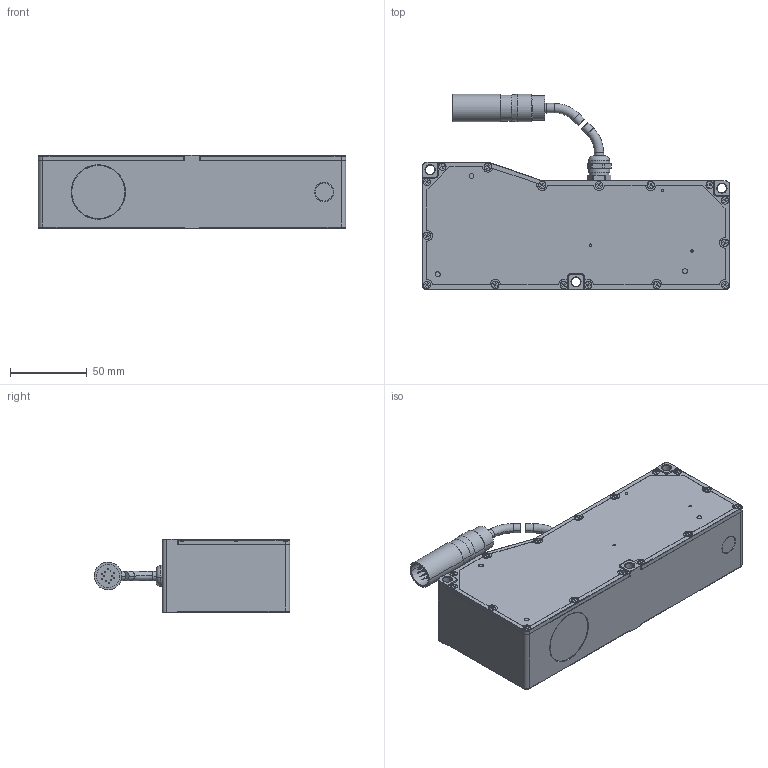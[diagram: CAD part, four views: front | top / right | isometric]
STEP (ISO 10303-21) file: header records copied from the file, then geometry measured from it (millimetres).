
FILE_DESCRIPTION (( 'STEP AP203' ), '1' );
FILE_NAME ('ILD1810-50 SU A 19_01_06.STEP', '2006-01-19T15:20:21', ( 'Gebhardt' ), ( 'Micro-Optronic Messtechnik' ), 'SwSTEP 2.0', 'SolidWorks 2005103', '' );
FILE_SCHEMA (( 'CONFIG_CONTROL_DESIGN' ));
Length unit declared in the file: millimetre
Products named in the file (1): ILD1810-50 SU A 19_01_06
Bounding box: 200 x 127.17 x 48 mm (x, y, z)
Volume: 186956.5 mm3; surface area: 203790.4 mm2
Topology: 30 solids, 30 shells, 1342 faces, 3323 edges, 2064 vertices
Faces by surface type: plane 579, cylinder 529, cone 192, torus 42
Entity records: 39626 total; most frequent: DIRECTION 7145, CARTESIAN_POINT 6888, ORIENTED_EDGE 6582, EDGE_CURVE 3291, AXIS2_PLACEMENT_3D 2525, VECTOR 2095, LINE 2095, VERTEX_POINT 2064
